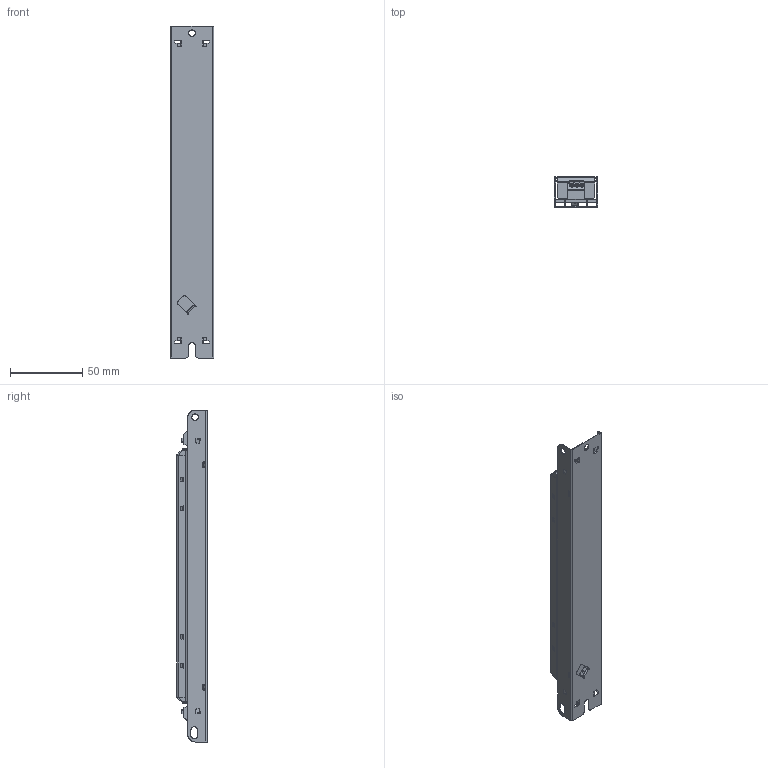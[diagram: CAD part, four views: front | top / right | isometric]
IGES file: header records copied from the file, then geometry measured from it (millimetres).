
Start section: SolidWorks IGES file using analytic representation for surfaces
Global section: file name: C:\Users\vuorinen_kari\Desktop\prj\LL1x38-E-CC\LL1x38-E-CC.IGS; native system: SolidWorks 2014; preprocessor: SolidWorks 2014; author: vuorinen_kari; date: 150526.131929; units: millimetre
Bounding box: 30 x 20.88 x 230 mm (x, y, z)
Surface area: 59353.3 mm2 (no closed solid volume)
Topology: 0 solids, 0 shells, 1010 faces, 7496 edges, 7484 vertices
Faces by surface type: bspline 658, revolution 352
